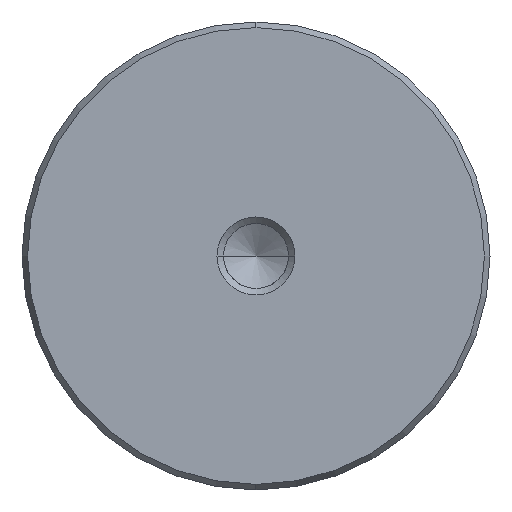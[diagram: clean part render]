
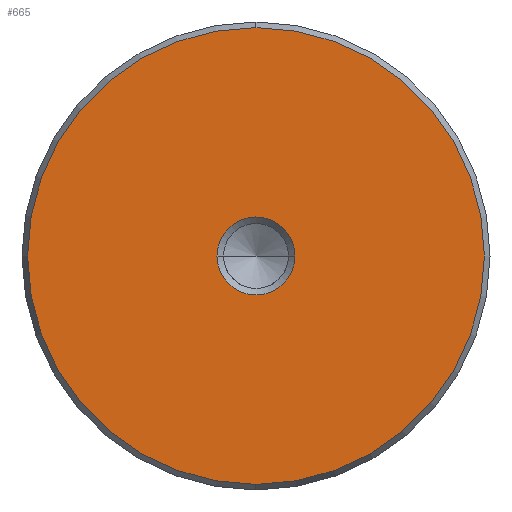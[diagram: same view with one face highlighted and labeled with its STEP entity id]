
A CAD part, left-side view. The second image highlights one B-rep face of the part: STEP entity #665.
In plain terms, the highlighted planar face has unit normal (-1, 0, 0).
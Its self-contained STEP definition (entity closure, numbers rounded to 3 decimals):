
#579=CARTESIAN_POINT('Vertex',(0.,0.,-23.423)) ;
#582=CARTESIAN_POINT('Axis2P3D Location',(0.,0.,0.)) ;
#586=CARTESIAN_POINT('Vertex',(0.,23.423,0.)) ;
#589=CARTESIAN_POINT('Axis2P3D Location',(0.,0.,0.)) ;
#593=CARTESIAN_POINT('Vertex',(0.,0.,23.423)) ;
#615=CARTESIAN_POINT('Axis2P3D Location',(0.,0.,0.)) ;
#619=CARTESIAN_POINT('Vertex',(0.,-23.423,0.)) ;
#622=CARTESIAN_POINT('Axis2P3D Location',(0.,0.,0.)) ;
#636=CARTESIAN_POINT('Axis2P3D Location',(0.,0.,0.)) ;
#647=CARTESIAN_POINT('Axis2P3D Location',(0.,0.,0.)) ;
#651=CARTESIAN_POINT('Vertex',(0.,4.,0.)) ;
#653=CARTESIAN_POINT('Vertex',(0.,-4.,0.)) ;
#656=CARTESIAN_POINT('Axis2P3D Location',(0.,0.,0.)) ;
#583=DIRECTION('Axis2P3D Direction',(1.,0.,-0.)) ;
#590=DIRECTION('Axis2P3D Direction',(1.,0.,-0.)) ;
#616=DIRECTION('Axis2P3D Direction',(1.,0.,-0.)) ;
#623=DIRECTION('Axis2P3D Direction',(1.,0.,-0.)) ;
#637=DIRECTION('Axis2P3D Direction',(1.,0.,-0.)) ;
#638=DIRECTION('Axis2P3D XDirection',(-0.,0.,-1.)) ;
#648=DIRECTION('Axis2P3D Direction',(1.,0.,-0.)) ;
#657=DIRECTION('Axis2P3D Direction',(1.,0.,-0.)) ;
#584=AXIS2_PLACEMENT_3D('Circle Axis2P3D',#582,#583,$) ;
#591=AXIS2_PLACEMENT_3D('Circle Axis2P3D',#589,#590,$) ;
#617=AXIS2_PLACEMENT_3D('Circle Axis2P3D',#615,#616,$) ;
#624=AXIS2_PLACEMENT_3D('Circle Axis2P3D',#622,#623,$) ;
#639=AXIS2_PLACEMENT_3D('Plane Axis2P3D',#636,#637,#638) ;
#649=AXIS2_PLACEMENT_3D('Circle Axis2P3D',#647,#648,$) ;
#658=AXIS2_PLACEMENT_3D('Circle Axis2P3D',#656,#657,$) ;
#642=ORIENTED_EDGE('',*,*,#588,.F.) ;
#643=ORIENTED_EDGE('',*,*,#626,.F.) ;
#644=ORIENTED_EDGE('',*,*,#621,.F.) ;
#645=ORIENTED_EDGE('',*,*,#595,.F.) ;
#662=ORIENTED_EDGE('',*,*,#655,.T.) ;
#663=ORIENTED_EDGE('',*,*,#660,.T.) ;
#664=FACE_BOUND('',#661,.T.) ;
#665=ADVANCED_FACE('720-48x315',(#646,#664),#640,.F.) ;
#585=CIRCLE('generated circle',#584,23.423) ;
#592=CIRCLE('generated circle',#591,23.423) ;
#618=CIRCLE('generated circle',#617,23.423) ;
#625=CIRCLE('generated circle',#624,23.423) ;
#650=CIRCLE('generated circle',#649,4.) ;
#659=CIRCLE('generated circle',#658,4.) ;
#588=EDGE_CURVE('',#580,#587,#585,.T.) ;
#595=EDGE_CURVE('',#587,#594,#592,.T.) ;
#621=EDGE_CURVE('',#594,#620,#618,.T.) ;
#626=EDGE_CURVE('',#620,#580,#625,.T.) ;
#655=EDGE_CURVE('',#652,#654,#650,.T.) ;
#660=EDGE_CURVE('',#654,#652,#659,.T.) ;
#641=EDGE_LOOP('',(#642,#643,#644,#645)) ;
#661=EDGE_LOOP('',(#662,#663)) ;
#646=FACE_OUTER_BOUND('',#641,.T.) ;
#640=PLANE('Plane',#639) ;
#580=VERTEX_POINT('',#579) ;
#587=VERTEX_POINT('',#586) ;
#594=VERTEX_POINT('',#593) ;
#620=VERTEX_POINT('',#619) ;
#652=VERTEX_POINT('',#651) ;
#654=VERTEX_POINT('',#653) ;
